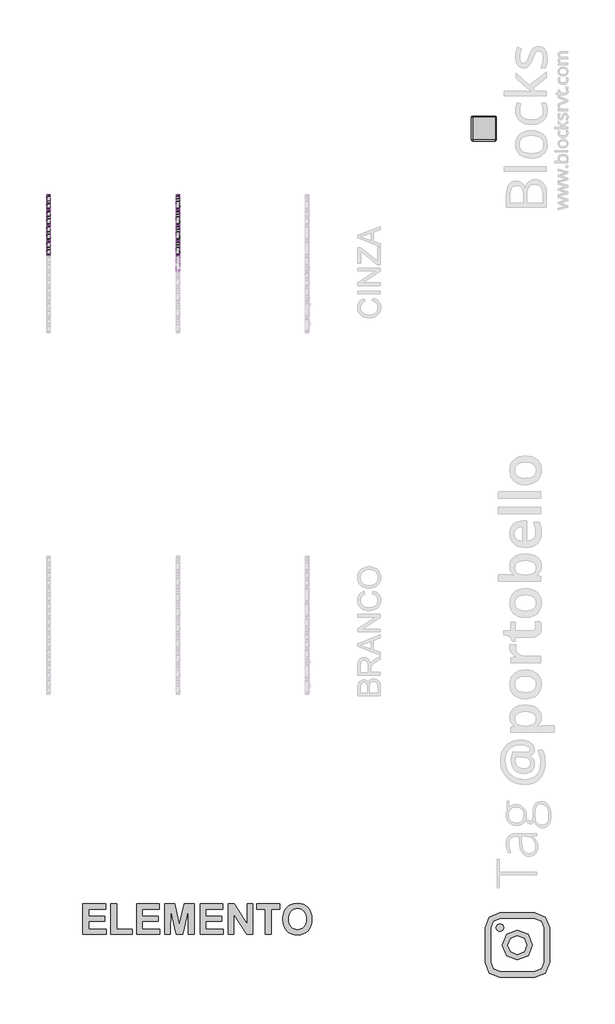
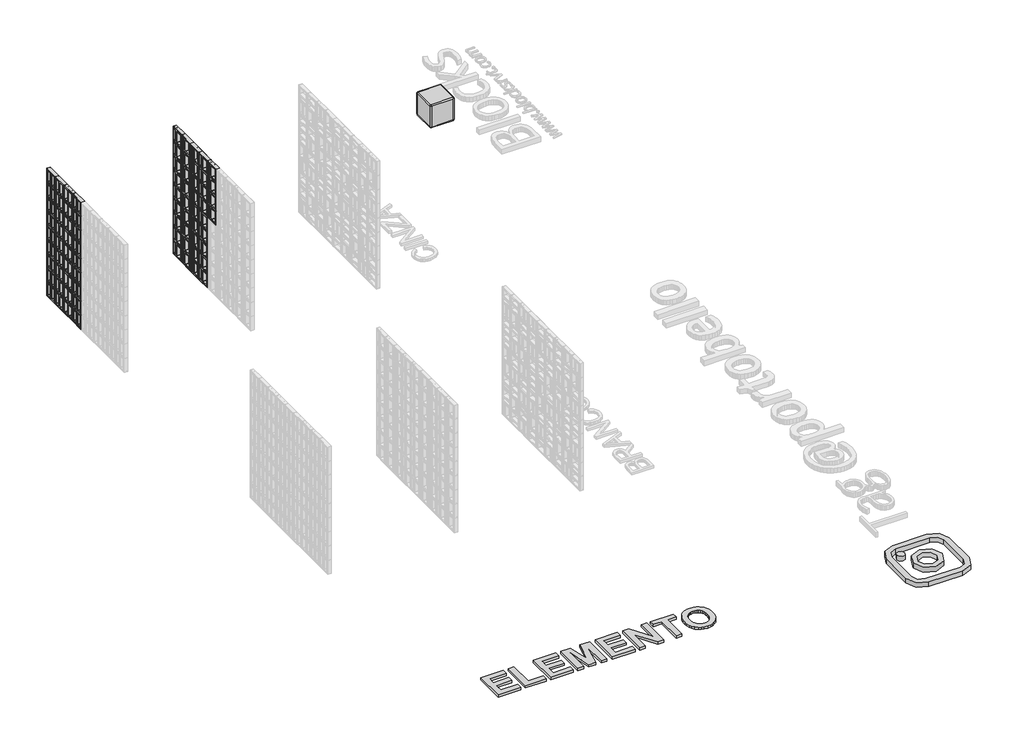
# One storey, part 3 of 8: 76 plates, 2 proxies, 1 furniture element.
"""IFC4 building model written with IfcOpenShell, lengths in millimetres."""

from ifc_helpers import new_model, si_unit, origin, origin_with_axes, place, context, project, spatial, polyline, outline, extrude, transform, mapped, element, save
from components import generic_models_d67f6705, branco_22256ad2, plate_08ec880d, sim_branco_8a5b93f5

model = new_model("IFC4")

# Units and contexts
model_context = context("Model", 3, world=origin())
ifc_project = project(units=[si_unit("LENGTHUNIT", "METRE", prefix="MILLI")], contexts=[model_context])

# Site, building, storey
site = spatial("IfcSite", under=ifc_project)
building = spatial("IfcBuilding", under=site)
storey = spatial("IfcBuildingStorey", under=building, Name="PORTOBELLO - SHOWROOM", Elevation=0.0)

# Proxies
placement = place(None, origin())
generic_models_shape = generic_models_d67f6705(model_context)
element("IfcBuildingElementProxy", 1, Name="Blks_Instagram1 : Único 2", ObjectType="Blks_Instagram1 : Único 2", at=placement, inside=storey, context=model_context, shape_type="MappedRepresentation", body=[
    mapped(generic_models_shape, transform((156779.9796643, -1701.2406298, 0.0), x_axis=(-1.0, 0.0, 0.0), y_axis=(0.0, -1.0, 0.0), z_axis=(0.0, 0.0, 1.0))),
])
element("IfcBuildingElementProxy", 2, Name="600mm Arial", ObjectType="600mm Arial", at=placement, inside=storey, context=model_context, shape_type="SweptSolid", body=[
    extrude(outline(polyline([(148063.8292187, -1488.7002712), (148063.8292187, -876.5446312), (148520.5167596, -876.5446312), (148520.5167596, -983.4289493), (148180.430293, -983.4289493), (148180.430293, -1119.463536), (148501.0832472, -1119.463536), (148501.0832472, -1226.3478541), (148180.430293, -1226.3478541), (148180.430293, -1381.8159531), (148530.2335158, -1381.8159531), (148530.2335158, -1488.7002712), (148063.8292187, -1488.7002712)])), origin_with_axes(), (0.0, 0.0, 1.0), 50.0),
    extrude(outline(polyline([(148627.4010777, -1488.7002712), (148627.4010777, -876.5446312), (148744.002152, -876.5446312), (148744.002152, -1381.8159531), (149054.9383501, -1381.8159531), (149054.9383501, -1488.7002712), (148627.4010777, -1488.7002712)])), origin_with_axes(), (0.0, 0.0, 1.0), 50.0),
    extrude(outline(polyline([(149142.3891558, -1488.7002712), (149142.3891558, -876.5446312), (149599.0766967, -876.5446312), (149599.0766967, -983.4289493), (149258.9902301, -983.4289493), (149258.9902301, -1119.463536), (149579.6431843, -1119.463536), (149579.6431843, -1226.3478541), (149258.9902301, -1226.3478541), (149258.9902301, -1381.8159531), (149608.7934529, -1381.8159531), (149608.7934529, -1488.7002712), (149142.3891558, -1488.7002712)])), origin_with_axes(), (0.0, 0.0, 1.0), 50.0),
    extrude(outline(polyline([(149705.9610148, -1488.7002712), (149705.9610148, -876.5446312), (149905.761814, -876.5446312), (150002.3220786, -1294.0614988), (150098.8823432, -876.5446312), (150298.6831424, -876.5446312), (150298.6831424, -1488.7002712), (150182.0820681, -1488.7002712), (150177.22369, -1006.8098939), (150070.6430206, -1488.7002712), (149934.1529609, -1488.7002712), (149827.4204672, -1006.8098939), (149822.5620891, -1488.7002712), (149705.9610148, -1488.7002712)])), origin_with_axes(), (0.0, 0.0, 1.0), 50.0),
    extrude(outline(polyline([(150415.2842167, -1488.7002712), (150415.2842167, -876.5446312), (150871.9717576, -876.5446312), (150871.9717576, -983.4289493), (150531.885291, -983.4289493), (150531.885291, -1119.463536), (150852.5382452, -1119.463536), (150852.5382452, -1226.3478541), (150531.885291, -1226.3478541), (150531.885291, -1381.8159531), (150881.6885138, -1381.8159531), (150881.6885138, -1488.7002712), (150415.2842167, -1488.7002712)])), origin_with_axes(), (0.0, 0.0, 1.0), 50.0),
    extrude(outline(polyline([(150978.8560757, -1488.7002712), (150978.8560757, -876.5446312), (151101.0746497, -876.5446312), (151357.8095671, -1288.5958234), (151357.8095671, -876.5446312), (151474.4106414, -876.5446312), (151474.4106414, -1488.7002712), (151348.3964596, -1488.7002712), (151095.45715, -1082.7220516), (151095.45715, -1488.7002712), (150978.8560757, -1488.7002712)])), origin_with_axes(), (0.0, 0.0, 1.0), 50.0),
    extrude(outline(polyline([(151727.0463023, -1488.7002712), (151727.0463023, -983.4289493), (151552.1446909, -983.4289493), (151552.1446909, -876.5446312), (152018.548988, -876.5446312), (152018.548988, -983.4289493), (151843.6473766, -983.4289493), (151843.6473766, -1488.7002712), (151727.0463023, -1488.7002712)])), origin_with_axes(), (0.0, 0.0, 1.0), 50.0),
    extrude(outline(polyline([(152076.8495252, -1186.4180591), (152078.5670377, -1141.610908), (152083.7195754, -1100.5614087), (152092.3071383, -1063.2695612), (152104.3297263, -1029.7353655), (152128.5646826, -985.4975556), (152160.2769865, -946.0042555), (152197.4170097, -913.6846544), (152237.9351239, -890.9679412), (152267.1043705, -880.4066622), (152298.4371136, -872.8628916), (152331.9333532, -868.3366292), (152367.5930893, -866.827875), (152430.6950704, -872.0610694), (152487.1547377, -887.7606525), (152536.9720912, -913.9266244), (152580.147131, -950.558985), (152598.8286385, -972.5130183), (152615.0192784, -996.509563), (152639.9279552, -1050.6301869), (152654.8731612, -1112.9208569), (152659.8548966, -1183.3815728), (152654.9111173, -1253.3630932), (152640.0797795, -1315.2789468), (152615.3608831, -1369.1291337), (152599.2936005, -1393.0296022), (152580.7544282, -1414.9136539), (152537.8640591, -1451.4463798), (152488.2934201, -1477.541184), (152432.0425112, -1493.1980665), (152369.1113325, -1498.4170274), (152305.5159223, -1493.2217891), (152248.7905624, -1477.6360742), (152198.9352529, -1451.6598827), (152155.9499935, -1415.2932147), (152121.3435386, -1369.8170877), (152096.6246423, -1316.5125194), (152081.7933044, -1255.3795099), (152076.8495252, -1186.4180591)]), holes=[polyline([(152193.4505995, -1182.1669783), (152196.5487644, -1230.5894459), (152205.8432592, -1272.7681385), (152221.3340839, -1308.7030562), (152243.0212385, -1338.3941989), (152269.4813699, -1361.6422972), (152299.2911254, -1378.2480817), (152332.4505048, -1388.2115524), (152368.9595081, -1391.5327093), (152405.4305554, -1388.2352749), (152438.4760666, -1378.3429719), (152468.0960416, -1361.8558001), (152494.2904806, -1338.7737597), (152515.7119426, -1309.0968505), (152531.0129869, -1272.8250726), (152540.1936134, -1229.9584261), (152543.2538223, -1180.4969108), (152540.2742701, -1131.7233494), (152531.3356135, -1089.5541458), (152516.4378526, -1053.9892999), (152495.5809872, -1025.0288117), (152469.7898317, -1002.5777911), (152440.0891999, -986.5413478), (152406.4790921, -976.9194818), (152368.9595081, -973.7121931), (152331.4019681, -976.9574379), (152297.677992, -986.6931721), (152267.7875799, -1002.9193958), (152241.7307318, -1025.636109), (152220.6081739, -1054.8907568), (152205.5206325, -1090.7307843), (152196.4681077, -1133.1561914), (152193.4505995, -1182.1669783)])]), origin_with_axes(), (0.0, 0.0, 1.0), 50.0),
])

# Furniture
branco_shape = branco_22256ad2(model_context)
element("IfcFurniture", 3, ObjectType="Blks_Mob_Blocks Revit_Cubo : Branco", at=placement, inside=storey, context=model_context, shape_type="MappedRepresentation", body=[
    mapped(branco_shape, transform((156105.3932959, 14670.1694969, 0.0), x_axis=(1.0, 0.0, 0.0), y_axis=(0.0, 1.0, 0.0), z_axis=(0.0, 0.0, 1.0))),
])

# Plates
plate_shape = plate_08ec880d(model_context)
element("IfcPlate", 4, ObjectType="PORTOBELLO - ELEMENTO ASSIM CINZA 30X30 (PAINEL CORTINA) : ASSIM CINZA", at=placement, inside=storey, context=model_context, shape_type="MappedRepresentation", body=[
    mapped(plate_shape, transform((149974.9354422, 11962.1065279, 1540.0), x_axis=(0.0, 1.0, 0.0), y_axis=(-1.0, 0.0, 0.0), z_axis=(0.0, 0.0, 1.0))),
])
element("IfcPlate", 5, ObjectType="PORTOBELLO - ELEMENTO ASSIM CINZA 30X30 (PAINEL CORTINA) : ASSIM CINZA", at=placement, inside=storey, context=model_context, shape_type="MappedRepresentation", body=[
    mapped(plate_shape, transform((149974.9354422, 11962.1065279, 1848.0), x_axis=(0.0, 1.0, 0.0), y_axis=(-1.0, 0.0, 0.0), z_axis=(0.0, 0.0, 1.0))),
])
element("IfcPlate", 6, ObjectType="PORTOBELLO - ELEMENTO ASSIM CINZA 30X30 (PAINEL CORTINA) : ASSIM CINZA", at=placement, inside=storey, context=model_context, shape_type="MappedRepresentation", body=[
    mapped(plate_shape, transform((149974.9354422, 11962.1065279, 2156.0), x_axis=(0.0, 1.0, 0.0), y_axis=(-1.0, 0.0, 0.0), z_axis=(0.0, 0.0, 1.0))),
])
element("IfcPlate", 7, ObjectType="PORTOBELLO - ELEMENTO ASSIM CINZA 30X30 (PAINEL CORTINA) : ASSIM CINZA", at=placement, inside=storey, context=model_context, shape_type="MappedRepresentation", body=[
    mapped(plate_shape, transform((149974.9354422, 12270.1065279, 0.0), x_axis=(0.0, 1.0, 0.0), y_axis=(-1.0, 0.0, 0.0), z_axis=(0.0, 0.0, 1.0))),
])
element("IfcPlate", 8, ObjectType="PORTOBELLO - ELEMENTO ASSIM CINZA 30X30 (PAINEL CORTINA) : ASSIM CINZA", at=placement, inside=storey, context=model_context, shape_type="MappedRepresentation", body=[
    mapped(plate_shape, transform((149974.9354422, 12270.1065279, 308.0), x_axis=(0.0, 1.0, 0.0), y_axis=(-1.0, 0.0, 0.0), z_axis=(0.0, 0.0, 1.0))),
])
element("IfcPlate", 9, ObjectType="PORTOBELLO - ELEMENTO ASSIM CINZA 30X30 (PAINEL CORTINA) : ASSIM CINZA", at=placement, inside=storey, context=model_context, shape_type="MappedRepresentation", body=[
    mapped(plate_shape, transform((149974.9354422, 12270.1065279, 616.0), x_axis=(0.0, 1.0, 0.0), y_axis=(-1.0, 0.0, 0.0), z_axis=(0.0, 0.0, 1.0))),
])
element("IfcPlate", 10, ObjectType="PORTOBELLO - ELEMENTO ASSIM CINZA 30X30 (PAINEL CORTINA) : ASSIM CINZA", at=placement, inside=storey, context=model_context, shape_type="MappedRepresentation", body=[
    mapped(plate_shape, transform((149974.9354422, 12270.1065279, 924.0), x_axis=(0.0, 1.0, 0.0), y_axis=(-1.0, 0.0, 0.0), z_axis=(0.0, 0.0, 1.0))),
])
element("IfcPlate", 11, ObjectType="PORTOBELLO - ELEMENTO ASSIM CINZA 30X30 (PAINEL CORTINA) : ASSIM CINZA", at=placement, inside=storey, context=model_context, shape_type="MappedRepresentation", body=[
    mapped(plate_shape, transform((149974.9354422, 12270.1065279, 1232.0), x_axis=(0.0, 1.0, 0.0), y_axis=(-1.0, 0.0, 0.0), z_axis=(0.0, 0.0, 1.0))),
])
element("IfcPlate", 12, ObjectType="PORTOBELLO - ELEMENTO ASSIM CINZA 30X30 (PAINEL CORTINA) : ASSIM CINZA", at=placement, inside=storey, context=model_context, shape_type="MappedRepresentation", body=[
    mapped(plate_shape, transform((149974.9354422, 12270.1065279, 1540.0), x_axis=(0.0, 1.0, 0.0), y_axis=(-1.0, 0.0, 0.0), z_axis=(0.0, 0.0, 1.0))),
])
element("IfcPlate", 13, ObjectType="PORTOBELLO - ELEMENTO ASSIM CINZA 30X30 (PAINEL CORTINA) : ASSIM CINZA", at=placement, inside=storey, context=model_context, shape_type="MappedRepresentation", body=[
    mapped(plate_shape, transform((149974.9354422, 12270.1065279, 1848.0), x_axis=(0.0, 1.0, 0.0), y_axis=(-1.0, 0.0, 0.0), z_axis=(0.0, 0.0, 1.0))),
])
element("IfcPlate", 14, ObjectType="PORTOBELLO - ELEMENTO ASSIM CINZA 30X30 (PAINEL CORTINA) : ASSIM CINZA", at=placement, inside=storey, context=model_context, shape_type="MappedRepresentation", body=[
    mapped(plate_shape, transform((149974.9354422, 12270.1065279, 2156.0), x_axis=(0.0, 1.0, 0.0), y_axis=(-1.0, 0.0, 0.0), z_axis=(0.0, 0.0, 1.0))),
])
element("IfcPlate", 15, ObjectType="PORTOBELLO - ELEMENTO ASSIM CINZA 30X30 (PAINEL CORTINA) : ASSIM CINZA", at=placement, inside=storey, context=model_context, shape_type="MappedRepresentation", body=[
    mapped(plate_shape, transform((149974.9354422, 12578.1065279, 0.0), x_axis=(0.0, 1.0, 0.0), y_axis=(-1.0, 0.0, 0.0), z_axis=(0.0, 0.0, 1.0))),
])
element("IfcPlate", 16, ObjectType="PORTOBELLO - ELEMENTO ASSIM CINZA 30X30 (PAINEL CORTINA) : ASSIM CINZA", at=placement, inside=storey, context=model_context, shape_type="MappedRepresentation", body=[
    mapped(plate_shape, transform((149974.9354422, 12578.1065279, 308.0), x_axis=(0.0, 1.0, 0.0), y_axis=(-1.0, 0.0, 0.0), z_axis=(0.0, 0.0, 1.0))),
])
element("IfcPlate", 17, ObjectType="PORTOBELLO - ELEMENTO ASSIM CINZA 30X30 (PAINEL CORTINA) : ASSIM CINZA", at=placement, inside=storey, context=model_context, shape_type="MappedRepresentation", body=[
    mapped(plate_shape, transform((149974.9354422, 12578.1065279, 616.0), x_axis=(0.0, 1.0, 0.0), y_axis=(-1.0, 0.0, 0.0), z_axis=(0.0, 0.0, 1.0))),
])
element("IfcPlate", 18, ObjectType="PORTOBELLO - ELEMENTO ASSIM CINZA 30X30 (PAINEL CORTINA) : ASSIM CINZA", at=placement, inside=storey, context=model_context, shape_type="MappedRepresentation", body=[
    mapped(plate_shape, transform((149974.9354422, 12578.1065279, 924.0), x_axis=(0.0, 1.0, 0.0), y_axis=(-1.0, 0.0, 0.0), z_axis=(0.0, 0.0, 1.0))),
])
element("IfcPlate", 19, ObjectType="PORTOBELLO - ELEMENTO ASSIM CINZA 30X30 (PAINEL CORTINA) : ASSIM CINZA", at=placement, inside=storey, context=model_context, shape_type="MappedRepresentation", body=[
    mapped(plate_shape, transform((149974.9354422, 12578.1065279, 1232.0), x_axis=(0.0, 1.0, 0.0), y_axis=(-1.0, 0.0, 0.0), z_axis=(0.0, 0.0, 1.0))),
])
element("IfcPlate", 20, ObjectType="PORTOBELLO - ELEMENTO ASSIM CINZA 30X30 (PAINEL CORTINA) : ASSIM CINZA", at=placement, inside=storey, context=model_context, shape_type="MappedRepresentation", body=[
    mapped(plate_shape, transform((149974.9354422, 12578.1065279, 1540.0), x_axis=(0.0, 1.0, 0.0), y_axis=(-1.0, 0.0, 0.0), z_axis=(0.0, 0.0, 1.0))),
])
element("IfcPlate", 21, ObjectType="PORTOBELLO - ELEMENTO ASSIM CINZA 30X30 (PAINEL CORTINA) : ASSIM CINZA", at=placement, inside=storey, context=model_context, shape_type="MappedRepresentation", body=[
    mapped(plate_shape, transform((149974.9354422, 12578.1065279, 1848.0), x_axis=(0.0, 1.0, 0.0), y_axis=(-1.0, 0.0, 0.0), z_axis=(0.0, 0.0, 1.0))),
])
element("IfcPlate", 22, ObjectType="PORTOBELLO - ELEMENTO ASSIM CINZA 30X30 (PAINEL CORTINA) : ASSIM CINZA", at=placement, inside=storey, context=model_context, shape_type="MappedRepresentation", body=[
    mapped(plate_shape, transform((149974.9354422, 12578.1065279, 2156.0), x_axis=(0.0, 1.0, 0.0), y_axis=(-1.0, 0.0, 0.0), z_axis=(0.0, 0.0, 1.0))),
])
element("IfcPlate", 23, ObjectType="PORTOBELLO - ELEMENTO ASSIM CINZA 30X30 (PAINEL CORTINA) : ASSIM CINZA", at=placement, inside=storey, context=model_context, shape_type="MappedRepresentation", body=[
    mapped(plate_shape, transform((149974.9354422, 12886.1065279, 0.0), x_axis=(0.0, 1.0, 0.0), y_axis=(-1.0, 0.0, 0.0), z_axis=(0.0, 0.0, 1.0))),
])
element("IfcPlate", 24, ObjectType="PORTOBELLO - ELEMENTO ASSIM CINZA 30X30 (PAINEL CORTINA) : ASSIM CINZA", at=placement, inside=storey, context=model_context, shape_type="MappedRepresentation", body=[
    mapped(plate_shape, transform((149974.9354422, 12886.1065279, 308.0), x_axis=(0.0, 1.0, 0.0), y_axis=(-1.0, 0.0, 0.0), z_axis=(0.0, 0.0, 1.0))),
])
element("IfcPlate", 25, ObjectType="PORTOBELLO - ELEMENTO ASSIM CINZA 30X30 (PAINEL CORTINA) : ASSIM CINZA", at=placement, inside=storey, context=model_context, shape_type="MappedRepresentation", body=[
    mapped(plate_shape, transform((149974.9354422, 12886.1065279, 616.0), x_axis=(0.0, 1.0, 0.0), y_axis=(-1.0, 0.0, 0.0), z_axis=(0.0, 0.0, 1.0))),
])
element("IfcPlate", 26, ObjectType="PORTOBELLO - ELEMENTO ASSIM CINZA 30X30 (PAINEL CORTINA) : ASSIM CINZA", at=placement, inside=storey, context=model_context, shape_type="MappedRepresentation", body=[
    mapped(plate_shape, transform((149974.9354422, 12886.1065279, 924.0), x_axis=(0.0, 1.0, 0.0), y_axis=(-1.0, 0.0, 0.0), z_axis=(0.0, 0.0, 1.0))),
])
element("IfcPlate", 27, ObjectType="PORTOBELLO - ELEMENTO ASSIM CINZA 30X30 (PAINEL CORTINA) : ASSIM CINZA", at=placement, inside=storey, context=model_context, shape_type="MappedRepresentation", body=[
    mapped(plate_shape, transform((149974.9354422, 12886.1065279, 1232.0), x_axis=(0.0, 1.0, 0.0), y_axis=(-1.0, 0.0, 0.0), z_axis=(0.0, 0.0, 1.0))),
])
element("IfcPlate", 28, ObjectType="PORTOBELLO - ELEMENTO ASSIM CINZA 30X30 (PAINEL CORTINA) : ASSIM CINZA", at=placement, inside=storey, context=model_context, shape_type="MappedRepresentation", body=[
    mapped(plate_shape, transform((149974.9354422, 12886.1065279, 1540.0), x_axis=(0.0, 1.0, 0.0), y_axis=(-1.0, 0.0, 0.0), z_axis=(0.0, 0.0, 1.0))),
])
element("IfcPlate", 29, ObjectType="PORTOBELLO - ELEMENTO ASSIM CINZA 30X30 (PAINEL CORTINA) : ASSIM CINZA", at=placement, inside=storey, context=model_context, shape_type="MappedRepresentation", body=[
    mapped(plate_shape, transform((149974.9354422, 12886.1065279, 1848.0), x_axis=(0.0, 1.0, 0.0), y_axis=(-1.0, 0.0, 0.0), z_axis=(0.0, 0.0, 1.0))),
])
element("IfcPlate", 30, ObjectType="PORTOBELLO - ELEMENTO ASSIM CINZA 30X30 (PAINEL CORTINA) : ASSIM CINZA", at=placement, inside=storey, context=model_context, shape_type="MappedRepresentation", body=[
    mapped(plate_shape, transform((149974.9354422, 12886.1065279, 2156.0), x_axis=(0.0, 1.0, 0.0), y_axis=(-1.0, 0.0, 0.0), z_axis=(0.0, 0.0, 1.0))),
])
element("IfcPlate", 31, ObjectType="PORTOBELLO - ELEMENTO ASSIM CINZA 30X30 (PAINEL CORTINA) : ASSIM CINZA", at=placement, inside=storey, context=model_context, shape_type="MappedRepresentation", body=[
    mapped(plate_shape, transform((149974.9354422, 13194.1065278, 0.0), x_axis=(0.0, 1.0, 0.0), y_axis=(-1.0, 0.0, 0.0), z_axis=(0.0, 0.0, 1.0))),
])
element("IfcPlate", 32, ObjectType="PORTOBELLO - ELEMENTO ASSIM CINZA 30X30 (PAINEL CORTINA) : ASSIM CINZA", at=placement, inside=storey, context=model_context, shape_type="MappedRepresentation", body=[
    mapped(plate_shape, transform((149974.9354422, 13194.1065278, 308.0), x_axis=(0.0, 1.0, 0.0), y_axis=(-1.0, 0.0, 0.0), z_axis=(0.0, 0.0, 1.0))),
])
element("IfcPlate", 33, ObjectType="PORTOBELLO - ELEMENTO ASSIM CINZA 30X30 (PAINEL CORTINA) : ASSIM CINZA", at=placement, inside=storey, context=model_context, shape_type="MappedRepresentation", body=[
    mapped(plate_shape, transform((149974.9354422, 13194.1065278, 616.0), x_axis=(0.0, 1.0, 0.0), y_axis=(-1.0, 0.0, 0.0), z_axis=(0.0, 0.0, 1.0))),
])
element("IfcPlate", 34, ObjectType="PORTOBELLO - ELEMENTO ASSIM CINZA 30X30 (PAINEL CORTINA) : ASSIM CINZA", at=placement, inside=storey, context=model_context, shape_type="MappedRepresentation", body=[
    mapped(plate_shape, transform((149974.9354422, 13194.1065278, 924.0), x_axis=(0.0, 1.0, 0.0), y_axis=(-1.0, 0.0, 0.0), z_axis=(0.0, 0.0, 1.0))),
])
element("IfcPlate", 35, ObjectType="PORTOBELLO - ELEMENTO ASSIM CINZA 30X30 (PAINEL CORTINA) : ASSIM CINZA", at=placement, inside=storey, context=model_context, shape_type="MappedRepresentation", body=[
    mapped(plate_shape, transform((149974.9354422, 13194.1065278, 1232.0), x_axis=(0.0, 1.0, 0.0), y_axis=(-1.0, 0.0, 0.0), z_axis=(0.0, 0.0, 1.0))),
])
element("IfcPlate", 36, ObjectType="PORTOBELLO - ELEMENTO ASSIM CINZA 30X30 (PAINEL CORTINA) : ASSIM CINZA", at=placement, inside=storey, context=model_context, shape_type="MappedRepresentation", body=[
    mapped(plate_shape, transform((149974.9354422, 13194.1065278, 1540.0), x_axis=(0.0, 1.0, 0.0), y_axis=(-1.0, 0.0, 0.0), z_axis=(0.0, 0.0, 1.0))),
])
element("IfcPlate", 37, ObjectType="PORTOBELLO - ELEMENTO ASSIM CINZA 30X30 (PAINEL CORTINA) : ASSIM CINZA", at=placement, inside=storey, context=model_context, shape_type="MappedRepresentation", body=[
    mapped(plate_shape, transform((149974.9354422, 13194.1065278, 1848.0), x_axis=(0.0, 1.0, 0.0), y_axis=(-1.0, 0.0, 0.0), z_axis=(0.0, 0.0, 1.0))),
])
element("IfcPlate", 38, ObjectType="PORTOBELLO - ELEMENTO ASSIM CINZA 30X30 (PAINEL CORTINA) : ASSIM CINZA", at=placement, inside=storey, context=model_context, shape_type="MappedRepresentation", body=[
    mapped(plate_shape, transform((149974.9354422, 13194.1065278, 2156.0), x_axis=(0.0, 1.0, 0.0), y_axis=(-1.0, 0.0, 0.0), z_axis=(0.0, 0.0, 1.0))),
])
element("IfcPlate", 39, ObjectType="PORTOBELLO - ELEMENTO ASSIM CINZA 30X30 (PAINEL CORTINA) : ASSIM CINZA", at=placement, inside=storey, context=model_context, shape_type="MappedRepresentation", body=[
    mapped(plate_shape, transform((149974.9354422, 11962.1065279, 2464.0), x_axis=(0.0, 1.0, 0.0), y_axis=(-1.0, 0.0, 0.0), z_axis=(0.0, 0.0, 1.0))),
])
element("IfcPlate", 40, ObjectType="PORTOBELLO - ELEMENTO ASSIM CINZA 30X30 (PAINEL CORTINA) : ASSIM CINZA", at=placement, inside=storey, context=model_context, shape_type="MappedRepresentation", body=[
    mapped(plate_shape, transform((149974.9354422, 12270.1065279, 2464.0), x_axis=(0.0, 1.0, 0.0), y_axis=(-1.0, 0.0, 0.0), z_axis=(0.0, 0.0, 1.0))),
])
element("IfcPlate", 41, ObjectType="PORTOBELLO - ELEMENTO ASSIM CINZA 30X30 (PAINEL CORTINA) : ASSIM CINZA", at=placement, inside=storey, context=model_context, shape_type="MappedRepresentation", body=[
    mapped(plate_shape, transform((149974.9354422, 12578.1065279, 2464.0), x_axis=(0.0, 1.0, 0.0), y_axis=(-1.0, 0.0, 0.0), z_axis=(0.0, 0.0, 1.0))),
])
element("IfcPlate", 42, ObjectType="PORTOBELLO - ELEMENTO ASSIM CINZA 30X30 (PAINEL CORTINA) : ASSIM CINZA", at=placement, inside=storey, context=model_context, shape_type="MappedRepresentation", body=[
    mapped(plate_shape, transform((149974.9354422, 12886.1065279, 2464.0), x_axis=(0.0, 1.0, 0.0), y_axis=(-1.0, 0.0, 0.0), z_axis=(0.0, 0.0, 1.0))),
])
element("IfcPlate", 43, ObjectType="PORTOBELLO - ELEMENTO ASSIM CINZA 30X30 (PAINEL CORTINA) : ASSIM CINZA", at=placement, inside=storey, context=model_context, shape_type="MappedRepresentation", body=[
    mapped(plate_shape, transform((149974.9354422, 13194.1065278, 2464.0), x_axis=(0.0, 1.0, 0.0), y_axis=(-1.0, 0.0, 0.0), z_axis=(0.0, 0.0, 1.0))),
])
sim_branco_shape = sim_branco_8a5b93f5(model_context)
element("IfcPlate", 44, ObjectType="PORTOBELLO - ELEMENTO SIM CINZA 30X30 (PAINEL CORTINA) : SIM CINZA", at=placement, inside=storey, context=model_context, shape_type="MappedRepresentation", body=[
    mapped(sim_branco_shape, transform((147374.9354422, 12270.1065279, 0.0), x_axis=(0.0, 1.0, 0.0), y_axis=(-1.0, 0.0, 0.0), z_axis=(0.0, 0.0, 1.0))),
])
element("IfcPlate", 45, ObjectType="PORTOBELLO - ELEMENTO SIM CINZA 30X30 (PAINEL CORTINA) : SIM CINZA", at=placement, inside=storey, context=model_context, shape_type="MappedRepresentation", body=[
    mapped(sim_branco_shape, transform((147374.9354422, 12578.1065279, 0.0), x_axis=(0.0, 1.0, 0.0), y_axis=(-1.0, 0.0, 0.0), z_axis=(0.0, 0.0, 1.0))),
])
element("IfcPlate", 46, ObjectType="PORTOBELLO - ELEMENTO SIM CINZA 30X30 (PAINEL CORTINA) : SIM CINZA", at=placement, inside=storey, context=model_context, shape_type="MappedRepresentation", body=[
    mapped(sim_branco_shape, transform((147374.9354422, 12886.1065279, 0.0), x_axis=(0.0, 1.0, 0.0), y_axis=(-1.0, 0.0, 0.0), z_axis=(0.0, 0.0, 1.0))),
])
element("IfcPlate", 47, ObjectType="PORTOBELLO - ELEMENTO SIM CINZA 30X30 (PAINEL CORTINA) : SIM CINZA", at=placement, inside=storey, context=model_context, shape_type="MappedRepresentation", body=[
    mapped(sim_branco_shape, transform((147374.9354422, 13194.1065278, 0.0), x_axis=(0.0, 1.0, 0.0), y_axis=(-1.0, 0.0, 0.0), z_axis=(0.0, 0.0, 1.0))),
])
element("IfcPlate", 48, ObjectType="PORTOBELLO - ELEMENTO SIM CINZA 30X30 (PAINEL CORTINA) : SIM CINZA", at=placement, inside=storey, context=model_context, shape_type="MappedRepresentation", body=[
    mapped(sim_branco_shape, transform((147374.9354422, 12270.1065279, 308.0), x_axis=(0.0, 1.0, 0.0), y_axis=(-1.0, 0.0, 0.0), z_axis=(0.0, 0.0, 1.0))),
])
element("IfcPlate", 49, ObjectType="PORTOBELLO - ELEMENTO SIM CINZA 30X30 (PAINEL CORTINA) : SIM CINZA", at=placement, inside=storey, context=model_context, shape_type="MappedRepresentation", body=[
    mapped(sim_branco_shape, transform((147374.9354422, 12578.1065279, 308.0), x_axis=(0.0, 1.0, 0.0), y_axis=(-1.0, 0.0, 0.0), z_axis=(0.0, 0.0, 1.0))),
])
element("IfcPlate", 50, ObjectType="PORTOBELLO - ELEMENTO SIM CINZA 30X30 (PAINEL CORTINA) : SIM CINZA", at=placement, inside=storey, context=model_context, shape_type="MappedRepresentation", body=[
    mapped(sim_branco_shape, transform((147374.9354422, 12886.1065279, 308.0), x_axis=(0.0, 1.0, 0.0), y_axis=(-1.0, 0.0, 0.0), z_axis=(0.0, 0.0, 1.0))),
])
element("IfcPlate", 51, ObjectType="PORTOBELLO - ELEMENTO SIM CINZA 30X30 (PAINEL CORTINA) : SIM CINZA", at=placement, inside=storey, context=model_context, shape_type="MappedRepresentation", body=[
    mapped(sim_branco_shape, transform((147374.9354422, 13194.1065278, 308.0), x_axis=(0.0, 1.0, 0.0), y_axis=(-1.0, 0.0, 0.0), z_axis=(0.0, 0.0, 1.0))),
])
element("IfcPlate", 52, ObjectType="PORTOBELLO - ELEMENTO SIM CINZA 30X30 (PAINEL CORTINA) : SIM CINZA", at=placement, inside=storey, context=model_context, shape_type="MappedRepresentation", body=[
    mapped(sim_branco_shape, transform((147374.9354422, 12270.1065279, 616.0), x_axis=(0.0, 1.0, 0.0), y_axis=(-1.0, 0.0, 0.0), z_axis=(0.0, 0.0, 1.0))),
])
element("IfcPlate", 53, ObjectType="PORTOBELLO - ELEMENTO SIM CINZA 30X30 (PAINEL CORTINA) : SIM CINZA", at=placement, inside=storey, context=model_context, shape_type="MappedRepresentation", body=[
    mapped(sim_branco_shape, transform((147374.9354422, 12578.1065279, 616.0), x_axis=(0.0, 1.0, 0.0), y_axis=(-1.0, 0.0, 0.0), z_axis=(0.0, 0.0, 1.0))),
])
element("IfcPlate", 54, ObjectType="PORTOBELLO - ELEMENTO SIM CINZA 30X30 (PAINEL CORTINA) : SIM CINZA", at=placement, inside=storey, context=model_context, shape_type="MappedRepresentation", body=[
    mapped(sim_branco_shape, transform((147374.9354422, 12886.1065279, 616.0), x_axis=(0.0, 1.0, 0.0), y_axis=(-1.0, 0.0, 0.0), z_axis=(0.0, 0.0, 1.0))),
])
element("IfcPlate", 55, ObjectType="PORTOBELLO - ELEMENTO SIM CINZA 30X30 (PAINEL CORTINA) : SIM CINZA", at=placement, inside=storey, context=model_context, shape_type="MappedRepresentation", body=[
    mapped(sim_branco_shape, transform((147374.9354422, 13194.1065278, 616.0), x_axis=(0.0, 1.0, 0.0), y_axis=(-1.0, 0.0, 0.0), z_axis=(0.0, 0.0, 1.0))),
])
element("IfcPlate", 56, ObjectType="PORTOBELLO - ELEMENTO SIM CINZA 30X30 (PAINEL CORTINA) : SIM CINZA", at=placement, inside=storey, context=model_context, shape_type="MappedRepresentation", body=[
    mapped(sim_branco_shape, transform((147374.9354422, 12270.1065279, 924.0), x_axis=(0.0, 1.0, 0.0), y_axis=(-1.0, 0.0, 0.0), z_axis=(0.0, 0.0, 1.0))),
])
element("IfcPlate", 57, ObjectType="PORTOBELLO - ELEMENTO SIM CINZA 30X30 (PAINEL CORTINA) : SIM CINZA", at=placement, inside=storey, context=model_context, shape_type="MappedRepresentation", body=[
    mapped(sim_branco_shape, transform((147374.9354422, 12578.1065279, 924.0), x_axis=(0.0, 1.0, 0.0), y_axis=(-1.0, 0.0, 0.0), z_axis=(0.0, 0.0, 1.0))),
])
element("IfcPlate", 58, ObjectType="PORTOBELLO - ELEMENTO SIM CINZA 30X30 (PAINEL CORTINA) : SIM CINZA", at=placement, inside=storey, context=model_context, shape_type="MappedRepresentation", body=[
    mapped(sim_branco_shape, transform((147374.9354422, 12886.1065279, 924.0), x_axis=(0.0, 1.0, 0.0), y_axis=(-1.0, 0.0, 0.0), z_axis=(0.0, 0.0, 1.0))),
])
element("IfcPlate", 59, ObjectType="PORTOBELLO - ELEMENTO SIM CINZA 30X30 (PAINEL CORTINA) : SIM CINZA", at=placement, inside=storey, context=model_context, shape_type="MappedRepresentation", body=[
    mapped(sim_branco_shape, transform((147374.9354422, 13194.1065278, 924.0), x_axis=(0.0, 1.0, 0.0), y_axis=(-1.0, 0.0, 0.0), z_axis=(0.0, 0.0, 1.0))),
])
element("IfcPlate", 60, ObjectType="PORTOBELLO - ELEMENTO SIM CINZA 30X30 (PAINEL CORTINA) : SIM CINZA", at=placement, inside=storey, context=model_context, shape_type="MappedRepresentation", body=[
    mapped(sim_branco_shape, transform((147374.9354422, 12270.1065279, 1232.0), x_axis=(0.0, 1.0, 0.0), y_axis=(-1.0, 0.0, 0.0), z_axis=(0.0, 0.0, 1.0))),
])
element("IfcPlate", 61, ObjectType="PORTOBELLO - ELEMENTO SIM CINZA 30X30 (PAINEL CORTINA) : SIM CINZA", at=placement, inside=storey, context=model_context, shape_type="MappedRepresentation", body=[
    mapped(sim_branco_shape, transform((147374.9354422, 12578.1065279, 1232.0), x_axis=(0.0, 1.0, 0.0), y_axis=(-1.0, 0.0, 0.0), z_axis=(0.0, 0.0, 1.0))),
])
element("IfcPlate", 62, ObjectType="PORTOBELLO - ELEMENTO SIM CINZA 30X30 (PAINEL CORTINA) : SIM CINZA", at=placement, inside=storey, context=model_context, shape_type="MappedRepresentation", body=[
    mapped(sim_branco_shape, transform((147374.9354422, 12886.1065279, 1232.0), x_axis=(0.0, 1.0, 0.0), y_axis=(-1.0, 0.0, 0.0), z_axis=(0.0, 0.0, 1.0))),
])
element("IfcPlate", 63, ObjectType="PORTOBELLO - ELEMENTO SIM CINZA 30X30 (PAINEL CORTINA) : SIM CINZA", at=placement, inside=storey, context=model_context, shape_type="MappedRepresentation", body=[
    mapped(sim_branco_shape, transform((147374.9354422, 13194.1065278, 1232.0), x_axis=(0.0, 1.0, 0.0), y_axis=(-1.0, 0.0, 0.0), z_axis=(0.0, 0.0, 1.0))),
])
element("IfcPlate", 64, ObjectType="PORTOBELLO - ELEMENTO SIM CINZA 30X30 (PAINEL CORTINA) : SIM CINZA", at=placement, inside=storey, context=model_context, shape_type="MappedRepresentation", body=[
    mapped(sim_branco_shape, transform((147374.9354422, 12270.1065279, 1540.0), x_axis=(0.0, 1.0, 0.0), y_axis=(-1.0, 0.0, 0.0), z_axis=(0.0, 0.0, 1.0))),
])
element("IfcPlate", 65, ObjectType="PORTOBELLO - ELEMENTO SIM CINZA 30X30 (PAINEL CORTINA) : SIM CINZA", at=placement, inside=storey, context=model_context, shape_type="MappedRepresentation", body=[
    mapped(sim_branco_shape, transform((147374.9354422, 12578.1065279, 1540.0), x_axis=(0.0, 1.0, 0.0), y_axis=(-1.0, 0.0, 0.0), z_axis=(0.0, 0.0, 1.0))),
])
element("IfcPlate", 66, ObjectType="PORTOBELLO - ELEMENTO SIM CINZA 30X30 (PAINEL CORTINA) : SIM CINZA", at=placement, inside=storey, context=model_context, shape_type="MappedRepresentation", body=[
    mapped(sim_branco_shape, transform((147374.9354422, 12886.1065279, 1540.0), x_axis=(0.0, 1.0, 0.0), y_axis=(-1.0, 0.0, 0.0), z_axis=(0.0, 0.0, 1.0))),
])
element("IfcPlate", 67, ObjectType="PORTOBELLO - ELEMENTO SIM CINZA 30X30 (PAINEL CORTINA) : SIM CINZA", at=placement, inside=storey, context=model_context, shape_type="MappedRepresentation", body=[
    mapped(sim_branco_shape, transform((147374.9354422, 13194.1065278, 1540.0), x_axis=(0.0, 1.0, 0.0), y_axis=(-1.0, 0.0, 0.0), z_axis=(0.0, 0.0, 1.0))),
])
element("IfcPlate", 68, ObjectType="PORTOBELLO - ELEMENTO SIM CINZA 30X30 (PAINEL CORTINA) : SIM CINZA", at=placement, inside=storey, context=model_context, shape_type="MappedRepresentation", body=[
    mapped(sim_branco_shape, transform((147374.9354422, 12270.1065279, 1848.0), x_axis=(0.0, 1.0, 0.0), y_axis=(-1.0, 0.0, 0.0), z_axis=(0.0, 0.0, 1.0))),
])
element("IfcPlate", 69, ObjectType="PORTOBELLO - ELEMENTO SIM CINZA 30X30 (PAINEL CORTINA) : SIM CINZA", at=placement, inside=storey, context=model_context, shape_type="MappedRepresentation", body=[
    mapped(sim_branco_shape, transform((147374.9354422, 12578.1065279, 1848.0), x_axis=(0.0, 1.0, 0.0), y_axis=(-1.0, 0.0, 0.0), z_axis=(0.0, 0.0, 1.0))),
])
element("IfcPlate", 70, ObjectType="PORTOBELLO - ELEMENTO SIM CINZA 30X30 (PAINEL CORTINA) : SIM CINZA", at=placement, inside=storey, context=model_context, shape_type="MappedRepresentation", body=[
    mapped(sim_branco_shape, transform((147374.9354422, 12886.1065279, 1848.0), x_axis=(0.0, 1.0, 0.0), y_axis=(-1.0, 0.0, 0.0), z_axis=(0.0, 0.0, 1.0))),
])
element("IfcPlate", 71, ObjectType="PORTOBELLO - ELEMENTO SIM CINZA 30X30 (PAINEL CORTINA) : SIM CINZA", at=placement, inside=storey, context=model_context, shape_type="MappedRepresentation", body=[
    mapped(sim_branco_shape, transform((147374.9354422, 13194.1065278, 1848.0), x_axis=(0.0, 1.0, 0.0), y_axis=(-1.0, 0.0, 0.0), z_axis=(0.0, 0.0, 1.0))),
])
element("IfcPlate", 72, ObjectType="PORTOBELLO - ELEMENTO SIM CINZA 30X30 (PAINEL CORTINA) : SIM CINZA", at=placement, inside=storey, context=model_context, shape_type="MappedRepresentation", body=[
    mapped(sim_branco_shape, transform((147374.9354422, 12270.1065279, 2156.0), x_axis=(0.0, 1.0, 0.0), y_axis=(-1.0, 0.0, 0.0), z_axis=(0.0, 0.0, 1.0))),
])
element("IfcPlate", 73, ObjectType="PORTOBELLO - ELEMENTO SIM CINZA 30X30 (PAINEL CORTINA) : SIM CINZA", at=placement, inside=storey, context=model_context, shape_type="MappedRepresentation", body=[
    mapped(sim_branco_shape, transform((147374.9354422, 12578.1065279, 2156.0), x_axis=(0.0, 1.0, 0.0), y_axis=(-1.0, 0.0, 0.0), z_axis=(0.0, 0.0, 1.0))),
])
element("IfcPlate", 74, ObjectType="PORTOBELLO - ELEMENTO SIM CINZA 30X30 (PAINEL CORTINA) : SIM CINZA", at=placement, inside=storey, context=model_context, shape_type="MappedRepresentation", body=[
    mapped(sim_branco_shape, transform((147374.9354422, 12886.1065279, 2156.0), x_axis=(0.0, 1.0, 0.0), y_axis=(-1.0, 0.0, 0.0), z_axis=(0.0, 0.0, 1.0))),
])
element("IfcPlate", 75, ObjectType="PORTOBELLO - ELEMENTO SIM CINZA 30X30 (PAINEL CORTINA) : SIM CINZA", at=placement, inside=storey, context=model_context, shape_type="MappedRepresentation", body=[
    mapped(sim_branco_shape, transform((147374.9354422, 13194.1065278, 2156.0), x_axis=(0.0, 1.0, 0.0), y_axis=(-1.0, 0.0, 0.0), z_axis=(0.0, 0.0, 1.0))),
])
element("IfcPlate", 76, ObjectType="PORTOBELLO - ELEMENTO SIM CINZA 30X30 (PAINEL CORTINA) : SIM CINZA", at=placement, inside=storey, context=model_context, shape_type="MappedRepresentation", body=[
    mapped(sim_branco_shape, transform((147374.9354422, 12270.1065279, 2464.0), x_axis=(0.0, 1.0, 0.0), y_axis=(-1.0, 0.0, 0.0), z_axis=(0.0, 0.0, 1.0))),
])
element("IfcPlate", 77, ObjectType="PORTOBELLO - ELEMENTO SIM CINZA 30X30 (PAINEL CORTINA) : SIM CINZA", at=placement, inside=storey, context=model_context, shape_type="MappedRepresentation", body=[
    mapped(sim_branco_shape, transform((147374.9354422, 12578.1065279, 2464.0), x_axis=(0.0, 1.0, 0.0), y_axis=(-1.0, 0.0, 0.0), z_axis=(0.0, 0.0, 1.0))),
])
element("IfcPlate", 78, ObjectType="PORTOBELLO - ELEMENTO SIM CINZA 30X30 (PAINEL CORTINA) : SIM CINZA", at=placement, inside=storey, context=model_context, shape_type="MappedRepresentation", body=[
    mapped(sim_branco_shape, transform((147374.9354422, 12886.1065279, 2464.0), x_axis=(0.0, 1.0, 0.0), y_axis=(-1.0, 0.0, 0.0), z_axis=(0.0, 0.0, 1.0))),
])
element("IfcPlate", 79, ObjectType="PORTOBELLO - ELEMENTO SIM CINZA 30X30 (PAINEL CORTINA) : SIM CINZA", at=placement, inside=storey, context=model_context, shape_type="MappedRepresentation", body=[
    mapped(sim_branco_shape, transform((147374.9354422, 13194.1065278, 2464.0), x_axis=(0.0, 1.0, 0.0), y_axis=(-1.0, 0.0, 0.0), z_axis=(0.0, 0.0, 1.0))),
])

save(model, "model.ifc")
